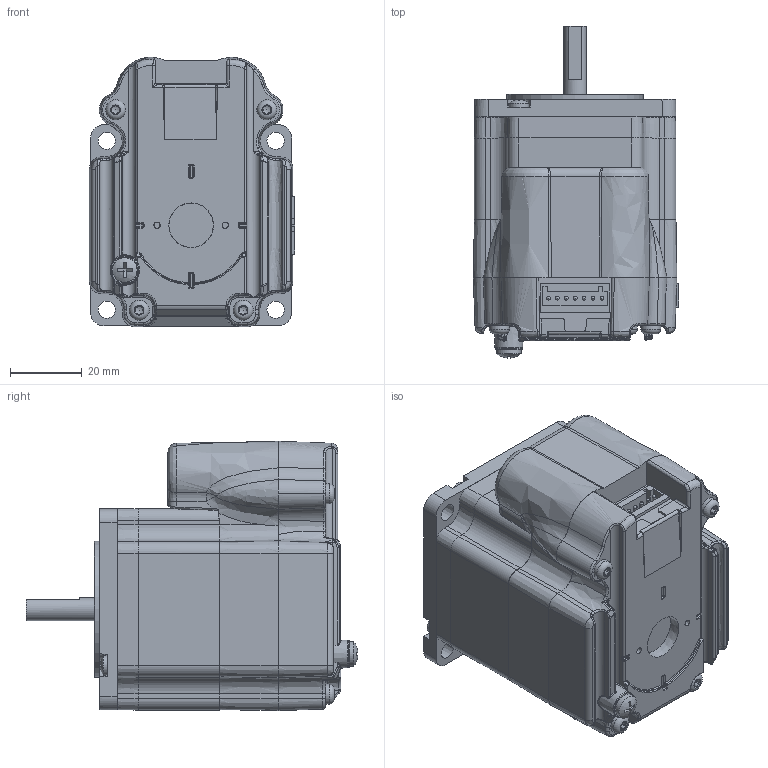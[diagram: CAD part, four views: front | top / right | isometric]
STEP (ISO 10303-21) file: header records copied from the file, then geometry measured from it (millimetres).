
FILE_DESCRIPTION(('MDrive23Plus, Single-Stack, P1 (IO PWR) and P2 (RD or RL 10-Pin).stp'),'1');
FILE_NAME('T:/Kubotek Models For Design Assemblies/3D Step File Models Posted on-line/MDrive23 Hybrid/Motion Control and Step, Torque, Speed/MDrive23Plus, Single-Stack, P1 (IO PWR) and P2 (RD or RL 10-Pin).stp', '2016-06-23T14:14:02',('P. Bordua, 06/23/16'), ('Kubotek USA, Inc.'), 'KCM Version 1.1.1406.0', 'Kubotek KeyCreator', 'KC');
FILE_SCHEMA(('AUTOMOTIVE_DESIGN'));
Length unit declared in the file: inch
Bounding box: 57.34 x 92.68 x 75.2 mm (x, y, z)
Volume: 219912.8 mm3; surface area: 34516.3 mm2
Topology: 2 solids, 2 shells, 877 faces, 2191 edges, 1332 vertices
Faces by surface type: plane 304, bspline 244, cylinder 219, cone 52, sphere 41, torus 17
Full cylindrical faces by diameter (mm): 1.041 x7, 5.563 x4, 5.6 x4, 6.35 x1, 6.858 x1, 7.62 x1, 8.001 x1, 10.16 x1, 38.1 x1
Entity records: 51370 total; most frequent: CARTESIAN_POINT 30315, ORIENTED_EDGE 4322, DIRECTION 3394, EDGE_CURVE 2161, VERTEX_POINT 1332, AXIS2_PLACEMENT_3D 1280, EDGE_LOOP 929, FACE_OUTER_BOUND 877
